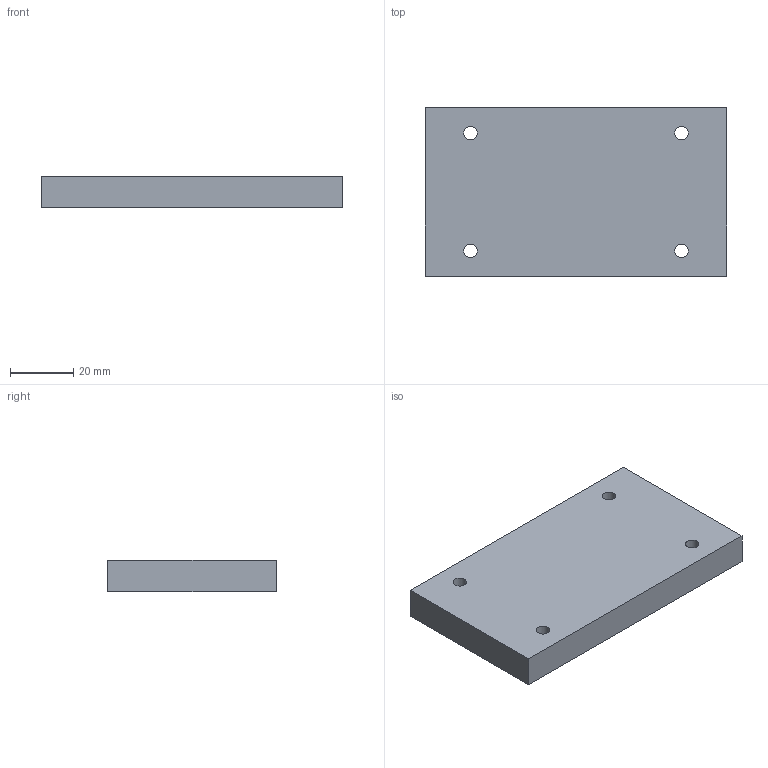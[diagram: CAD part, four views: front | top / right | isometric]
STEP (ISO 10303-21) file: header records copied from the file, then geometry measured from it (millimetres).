
FILE_DESCRIPTION(('Mechanical CAD reference from nasji.com'),'2;1');
FILE_NAME('NASJI.step','',(''),(''),'','NASJI distribution','');
FILE_SCHEMA(('AUTOMOTIVE_DESIGN { 1 0 10303 214 1 1 1 1 }'));
Length unit declared in the file: millimetre
Products named in the file (1): Open CASCADE STEP translator 7.8 107
Bounding box: 95 x 53 x 10 mm (x, y, z)
Volume: 49769.1 mm3; surface area: 13454.2 mm2
Topology: 1 solids, 1 shells, 10 faces, 24 edges, 16 vertices
Faces by surface type: plane 6, cylinder 4
Full cylindrical faces by diameter (mm): 4.3 x4
Entity records: 658 total; most frequent: CARTESIAN_POINT 147, DIRECTION 94, LINE 56, VECTOR 56, ORIENTED_EDGE 48, PCURVE 48, DEFINITIONAL_REPRESENTATION 48, EDGE_CURVE 24
